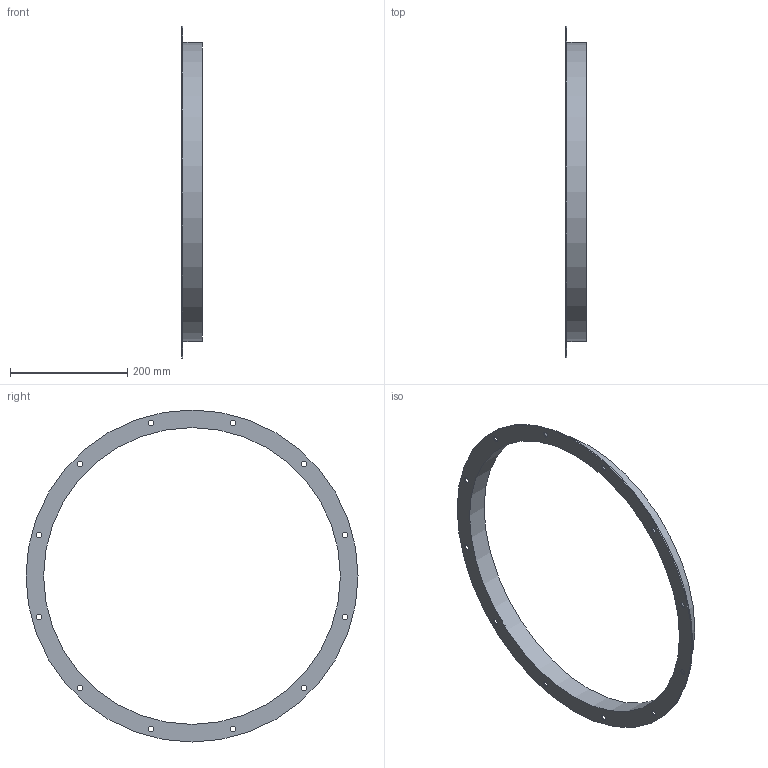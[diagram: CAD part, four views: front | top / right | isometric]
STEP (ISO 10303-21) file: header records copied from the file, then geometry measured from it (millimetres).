
FILE_DESCRIPTION(/* description */ (''),/* implementation_level */ '2;1');
FILE_NAME(/* name */ 'Z:\Output\FR_500-01208-001.stp',/* time_stamp */ '2017-09-25T09:45:39+02:00',/* author */ ('vijayparmar'),/* organization */ (''),/* preprocessor_version */ 'ST-DEVELOPER v16.5',/* originating_system */ 'Autodesk Inventor 2017',/* authorisation */ '');
FILE_SCHEMA (('AUTOMOTIVE_DESIGN { 1 0 10303 214 3 1 1 }'));
Length unit declared in the file: millimetre
Products named in the file (1): FR-1
Bounding box: 35 x 567 x 567 mm (x, y, z)
Volume: 205059.6 mm3; surface area: 212524 mm2
Topology: 1 solids, 1 shells, 18 faces, 57 edges, 42 vertices
Faces by surface type: cylinder 15, plane 3
Full cylindrical faces by diameter (mm): 9.5 x12, 507 x1, 511 x1, 567 x1
Entity records: 566 total; most frequent: DIRECTION 98, CARTESIAN_POINT 79, EDGE_LOOP 60, ORIENTED_EDGE 60, AXIS2_PLACEMENT_3D 49, FACE_BOUND 42, CIRCLE 30, VERTEX_POINT 30
